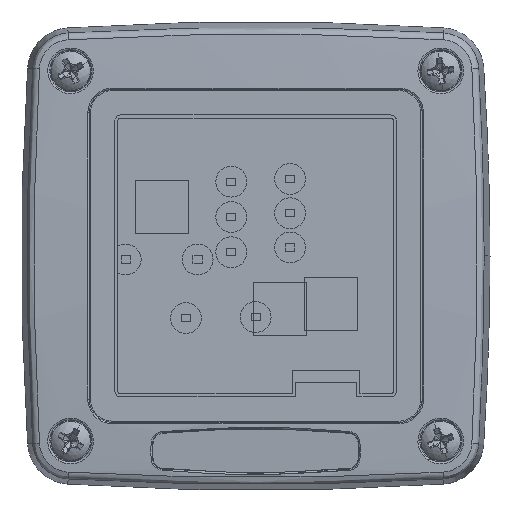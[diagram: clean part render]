
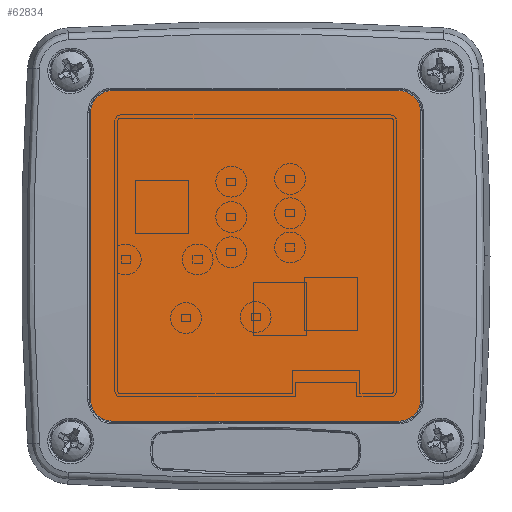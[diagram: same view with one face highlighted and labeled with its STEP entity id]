
A CAD part, top view. The second image highlights one B-rep face of the part: STEP entity #62834.
In plain terms, the highlighted planar face has unit normal (0, 0, 1).
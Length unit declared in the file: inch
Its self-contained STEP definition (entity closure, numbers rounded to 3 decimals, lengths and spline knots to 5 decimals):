
#1074 = VECTOR ( 'NONE', #23858, 39.37008 ) ;
#1980 = LINE ( 'NONE', #40028, #1074 ) ;
#2896 = ORIENTED_EDGE ( 'NONE', *, *, #37119, .T. ) ;
#4688 = DIRECTION ( 'NONE',  ( 0., 0., 1. ) ) ;
#5658 = DIRECTION ( 'NONE',  ( 1., 0., 0. ) ) ;
#7745 = DIRECTION ( 'NONE',  ( 0., 0., 1. ) ) ;
#7827 = LINE ( 'NONE', #45354, #92196 ) ;
#7878 = EDGE_LOOP ( 'NONE', ( #97058, #2896, #90944, #83802, #39131, #34427, #85134, #9291 ) ) ;
#8013 = VERTEX_POINT ( 'NONE', #28892 ) ;
#9291 = ORIENTED_EDGE ( 'NONE', *, *, #11461, .T. ) ;
#10289 = LINE ( 'NONE', #34796, #71134 ) ;
#11461 = EDGE_CURVE ( 'NONE', #101450, #20844, #56395, .T. ) ;
#16379 = CARTESIAN_POINT ( 'NONE',  ( -1.16, 1.34, 0. ) ) ;
#18447 = CARTESIAN_POINT ( 'NONE',  ( -1.16, 1.16, 0. ) ) ;
#18948 = DIRECTION ( 'NONE',  ( 1., 0., 0. ) ) ;
#20844 = VERTEX_POINT ( 'NONE', #16379 ) ;
#23858 = DIRECTION ( 'NONE',  ( 0., -1., 0. ) ) ;
#27631 = CARTESIAN_POINT ( 'NONE',  ( 1.16, -1.16, 0. ) ) ;
#27858 = VERTEX_POINT ( 'NONE', #74205 ) ;
#28892 = CARTESIAN_POINT ( 'NONE',  ( 1.34, 1.16, 0. ) ) ;
#28996 = EDGE_CURVE ( 'NONE', #8013, #101450, #64849, .T. ) ;
#29640 = DIRECTION ( 'NONE',  ( 1., 0., 0. ) ) ;
#34427 = ORIENTED_EDGE ( 'NONE', *, *, #76432, .T. ) ;
#34796 = CARTESIAN_POINT ( 'NONE',  ( 1.34, -1.16, 0. ) ) ;
#35275 = EDGE_CURVE ( 'NONE', #91310, #27858, #7827, .T. ) ;
#35421 = AXIS2_PLACEMENT_3D ( 'NONE', #101966, #68648, #5658 ) ;
#36132 = CIRCLE ( 'NONE', #84341, 0.18 ) ;
#37119 = EDGE_CURVE ( 'NONE', #94595, #70512, #1980, .T. ) ;
#37596 = CARTESIAN_POINT ( 'NONE',  ( -1.16, -1.34, 0. ) ) ;
#38263 = AXIS2_PLACEMENT_3D ( 'NONE', #47306, #70736, #29640 ) ;
#39131 = ORIENTED_EDGE ( 'NONE', *, *, #102681, .T. ) ;
#40028 = CARTESIAN_POINT ( 'NONE',  ( -1.34, 1.16, 0. ) ) ;
#44585 = CIRCLE ( 'NONE', #102789, 0.18 ) ;
#45354 = CARTESIAN_POINT ( 'NONE',  ( -1.16, -1.34, 0. ) ) ;
#47306 = CARTESIAN_POINT ( 'NONE',  ( 1.16, 1.16, 0. ) ) ;
#47447 = VERTEX_POINT ( 'NONE', #63654 ) ;
#50222 = DIRECTION ( 'NONE',  ( 0., 0., 1. ) ) ;
#52588 = DIRECTION ( 'NONE',  ( 1., 0., 0. ) ) ;
#56395 = LINE ( 'NONE', #97529, #87967 ) ;
#58676 = CIRCLE ( 'NONE', #35421, 0.18 ) ;
#62834 = ADVANCED_FACE ( 'NONE', ( #88746 ), #89800, .T. ) ;
#63654 = CARTESIAN_POINT ( 'NONE',  ( 1.34, -1.16, 0. ) ) ;
#64849 = CIRCLE ( 'NONE', #38263, 0.18 ) ;
#65611 = AXIS2_PLACEMENT_3D ( 'NONE', #18447, #50222, #18948 ) ;
#68648 = DIRECTION ( 'NONE',  ( 0., 0., 1. ) ) ;
#68763 = EDGE_CURVE ( 'NONE', #70512, #91310, #44585, .T. ) ;
#69012 = CARTESIAN_POINT ( 'NONE',  ( -1.34, 1.16, 0. ) ) ;
#70094 = CARTESIAN_POINT ( 'NONE',  ( 1.16, 1.34, 0. ) ) ;
#70512 = VERTEX_POINT ( 'NONE', #89267 ) ;
#70736 = DIRECTION ( 'NONE',  ( 0., 0., 1. ) ) ;
#71134 = VECTOR ( 'NONE', #90476, 39.37008 ) ;
#71296 = DIRECTION ( 'NONE',  ( 1., 0., 0. ) ) ;
#74205 = CARTESIAN_POINT ( 'NONE',  ( 1.16, -1.34, 0. ) ) ;
#76432 = EDGE_CURVE ( 'NONE', #47447, #8013, #10289, .T. ) ;
#77619 = DIRECTION ( 'NONE',  ( 1., 0., 0. ) ) ;
#83802 = ORIENTED_EDGE ( 'NONE', *, *, #35275, .T. ) ;
#84341 = AXIS2_PLACEMENT_3D ( 'NONE', #27631, #4688, #52588 ) ;
#85134 = ORIENTED_EDGE ( 'NONE', *, *, #28996, .T. ) ;
#85763 = EDGE_CURVE ( 'NONE', #20844, #94595, #58676, .T. ) ;
#86900 = CARTESIAN_POINT ( 'NONE',  ( -1.16, -1.16, 0. ) ) ;
#87967 = VECTOR ( 'NONE', #95460, 39.37008 ) ;
#88746 = FACE_OUTER_BOUND ( 'NONE', #7878, .T. ) ;
#89267 = CARTESIAN_POINT ( 'NONE',  ( -1.34, -1.16, 0. ) ) ;
#89800 = PLANE ( 'NONE',  #65611 ) ;
#90476 = DIRECTION ( 'NONE',  ( 0., 1., 0. ) ) ;
#90944 = ORIENTED_EDGE ( 'NONE', *, *, #68763, .T. ) ;
#91310 = VERTEX_POINT ( 'NONE', #37596 ) ;
#92196 = VECTOR ( 'NONE', #77619, 39.37008 ) ;
#94595 = VERTEX_POINT ( 'NONE', #69012 ) ;
#95460 = DIRECTION ( 'NONE',  ( -1., 0., 0. ) ) ;
#97058 = ORIENTED_EDGE ( 'NONE', *, *, #85763, .T. ) ;
#97529 = CARTESIAN_POINT ( 'NONE',  ( 1.16, 1.34, 0. ) ) ;
#101450 = VERTEX_POINT ( 'NONE', #70094 ) ;
#101966 = CARTESIAN_POINT ( 'NONE',  ( -1.16, 1.16, 0. ) ) ;
#102681 = EDGE_CURVE ( 'NONE', #27858, #47447, #36132, .T. ) ;
#102789 = AXIS2_PLACEMENT_3D ( 'NONE', #86900, #7745, #71296 ) ;
